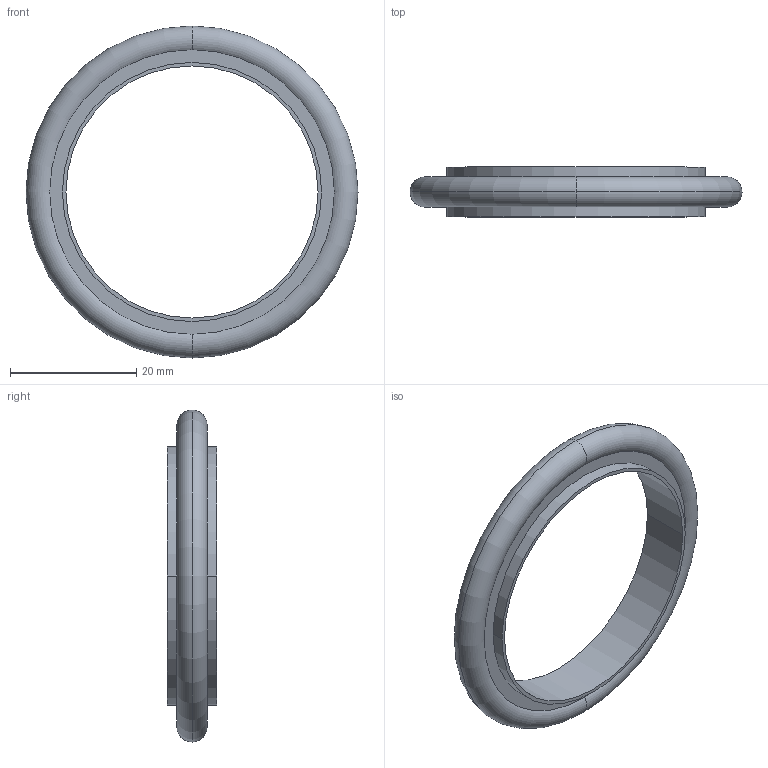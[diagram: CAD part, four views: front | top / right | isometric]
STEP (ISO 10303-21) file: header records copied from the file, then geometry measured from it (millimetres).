
FILE_DESCRIPTION(/* description */ ('Alibre Inc.'),/* implementation_level */ '2;1');
FILE_NAME(/* name */ 'export0',/* time_stamp */ '2015-02-18T13:45:41-08:00',/* author */ (''),/* organization */ (''),/* preprocessor_version */ 'ST-DEVELOPER v14',/* originating_system */ 'Alibre',/* authorisation */ '');
FILE_SCHEMA (('CONFIG_CONTROL_DESIGN'));
Length unit declared in the file: inch
Products named in the file (1): ID_1
Bounding box: 52.53 x 7.87 x 52.53 mm (x, y, z)
Volume: 3913.2 mm3; surface area: 3801.4 mm2
Topology: 1 solids, 1 shells, 14 faces, 28 edges, 18 vertices
Faces by surface type: cylinder 6, torus 4, plane 4
Entity records: 465 total; most frequent: DIRECTION 72, CARTESIAN_POINT 61, ORIENTED_EDGE 56, AXIS2_PLACEMENT_3D 37, EDGE_CURVE 28, CIRCLE 22, VERTEX_POINT 18, EDGE_LOOP 18
